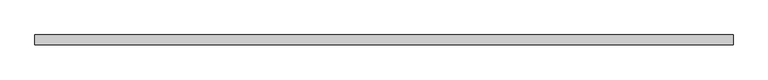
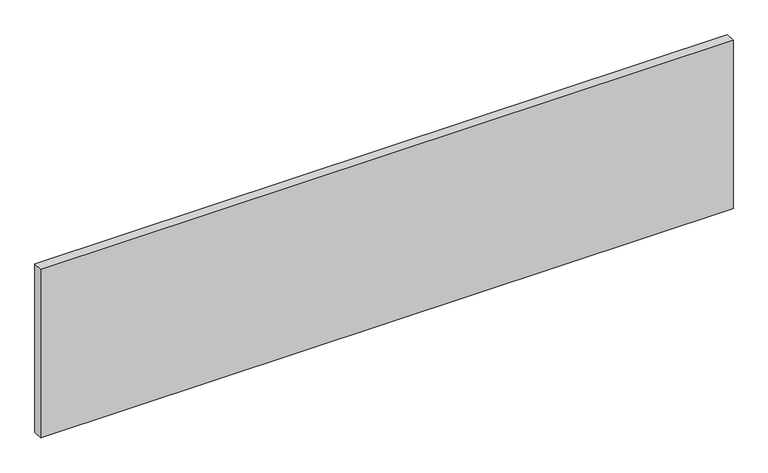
"""IFC4 building model written with IfcOpenShell, lengths in millimetres: proxy geometry, AERO^OFFICE 3_107x24 LIFT WALL-WORKSURFACE."""

from ifc_helpers import new_model, si_unit, frame, origin, place, context, project, spatial, polyline, outline, extrude, source, transform, mapped, element, save


def generic_models_6adc693e(model_context):
    return source(origin(), model_context, "Body", "SweptSolid", [
        extrude(outline(polyline([(0.0, 0.0), (0.0, 38.1), (2717.8, 38.1), (2717.8, 0.0), (0.0, 0.0)])), frame((0.0, 0.0, -698.5), z_axis=(0.0, 0.0, 1.0), x_axis=(1.0, 0.0, 0.0)), (0.0, 0.0, 1.0), 698.5),
    ])


if __name__ == "__main__":
    model = new_model("IFC4")
    model_context = context("Model", 3, world=origin())
    ifc_project = project(units=[si_unit("LENGTHUNIT", "METRE", prefix="MILLI")], contexts=[model_context])
    site = spatial("IfcSite", under=ifc_project)
    building = spatial("IfcBuilding", under=site)
    placement = place(None, origin())
    generic_models_shape = generic_models_6adc693e(model_context)
    element("IfcBuildingElementProxy", 1, Name="AERO^OFFICE 3_107x24 LIFT WALL-WORKSURFACE", ObjectType="AERO^OFFICE 3_107x24 LIFT WALL-WORKSURFACE", at=placement, inside=building, context=model_context, shape_type="MappedRepresentation", body=[
        mapped(generic_models_shape, transform((0.0, 0.0, 0.0), x_axis=(1.0, 0.0, 0.0), y_axis=(0.0, 1.0, 0.0), z_axis=(0.0, 0.0, 1.0))),
    ])
    save(model, "model.ifc")
